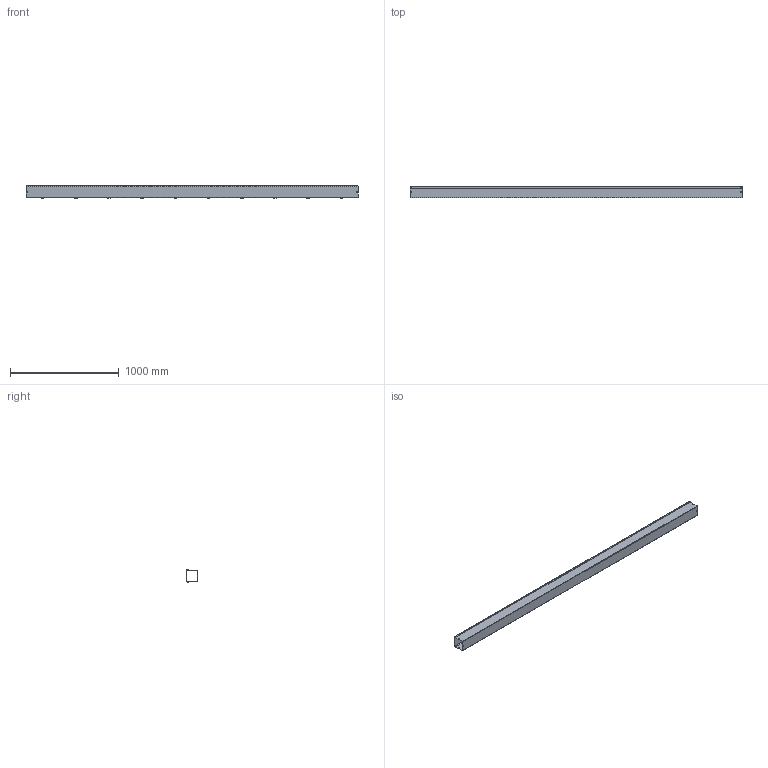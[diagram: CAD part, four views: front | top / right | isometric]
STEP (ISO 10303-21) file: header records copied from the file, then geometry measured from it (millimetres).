
FILE_DESCRIPTION (( 'STEP AP203' ), '1' );
FILE_NAME ('f44g120.STEP', '2015-10-27T13:30:24', ( '' ), ( '' ), 'SwSTEP 2.0', 'SolidWorks 2014', '' );
FILE_SCHEMA (( 'CONFIG_CONTROL_DESIGN' ));
Length unit declared in the file: inch
Products named in the file (4): 16104001; f44g120; 43301025; 43401013
Assembly tree (12 placements, depth 2):
  f44g120
    43301025
    43401013
    16104001  x10
Bounding box: 3048 x 107.11 x 115.52 mm (x, y, z)
Volume: 1954679.4 mm3; surface area: 2818304.2 mm2
Topology: 12 solids, 12 shells, 746 faces, 1818 edges, 1126 vertices
Faces by surface type: plane 418, cylinder 248, torus 40, cone 40
Entity records: 14991 total; most frequent: DIRECTION 2623, CARTESIAN_POINT 2409, ORIENTED_EDGE 2358, EDGE_CURVE 1179, AXIS2_PLACEMENT_3D 962, VERTEX_POINT 748, LINE 699, VECTOR 699
